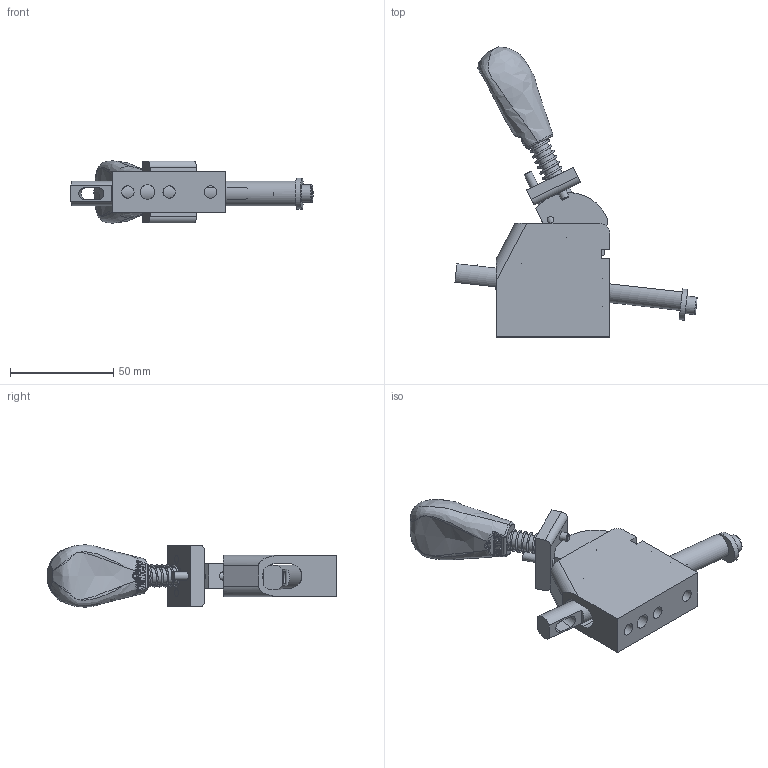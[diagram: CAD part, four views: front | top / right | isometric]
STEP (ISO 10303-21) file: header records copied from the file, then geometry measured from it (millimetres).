
FILE_DESCRIPTION(/* description */ (''),/* implementation_level */ '2;1');
FILE_NAME(/* name */ '\\192.168.1.150\pc03\Inventor\デュアルメカニズムクランプ最終\2017.10月　最新型\SUD-34ST-L\SUD-34ST-L-UNCLAMP.stp',/* time_stamp */ '2024-05-14T17:24:02+09:00',/* author */ ('Backup'),/* organization */ (''),/* preprocessor_version */ 'ST-DEVELOPER v17',/* originating_system */ 'Autodesk Inventor 2019',/* authorisation */ '');
FILE_SCHEMA (('AUTOMOTIVE_DESIGN { 1 0 10303 214 3 1 1 }'));
Length unit declared in the file: millimetre
Products named in the file (12): SUD-34ST-CLAMP; ボディ; 50-30_VER4_PG2__12; Φ8×40ｼｬﾌﾄ; カム; スライドバー; SB止め板; AS 1420 - 1973 - M5 x 14; ロック機構; φ4×25; φ4×25_1; スプリング
Assembly tree (12 placements, depth 2):
  SUD-34ST-CLAMP
    ボディ
    50-30_VER4_PG2__12
    Φ8×40ｼｬﾌﾄ
    カム
    スライドバー
    SB止め板
    AS 1420 - 1973 - M5 x 14
    ロック機構
    φ4×25_1  x2
    φ4×25
    スプリング
Bounding box: 117.36 x 140.51 x 30.18 mm (x, y, z)
Volume: 80378.4 mm3; surface area: 35106 mm2
Topology: 13 solids, 13 shells, 257 faces, 702 edges, 470 vertices
Faces by surface type: plane 128, cylinder 91, bspline 25, cone 7, sphere 4, torus 2
Full cylindrical faces by diameter (mm): 0.01 x13, 0.05 x1, 1.306 x1, 3.2 x2, 4 x7, 4.1 x1, 4.2 x3, 4.3 x1, 5 x1, 5.2 x1, 6 x4, 7.1 x1, 8 x2, 8.2 x1, 8.5 x1, 12 x1, 15 x1
Entity records: 19912 total; most frequent: CARTESIAN_POINT 12994, ORIENTED_EDGE 1382, DIRECTION 1311, EDGE_CURVE 691, AXIS2_PLACEMENT_3D 475, VERTEX_POINT 466, LINE 361, VECTOR 361
